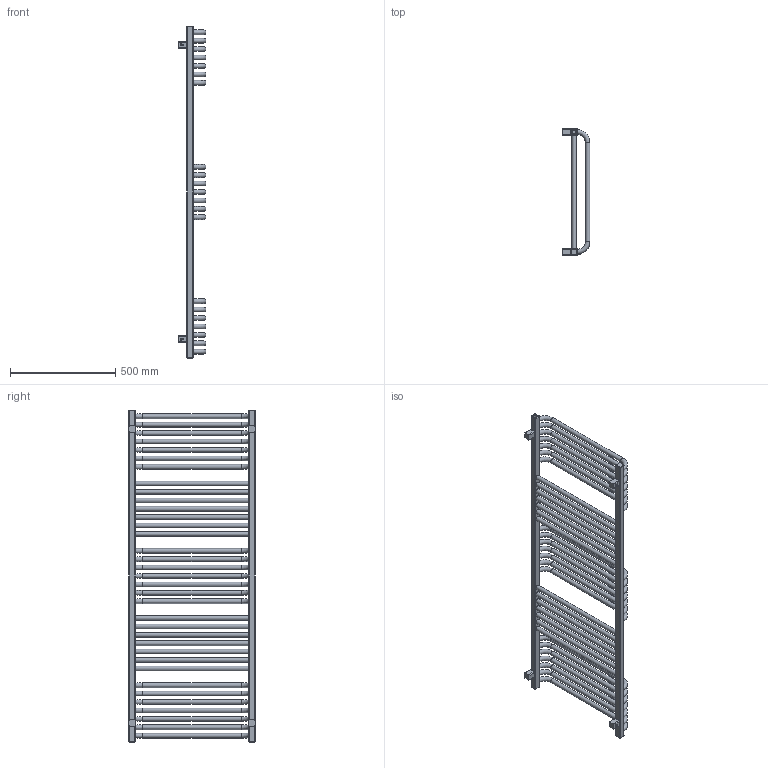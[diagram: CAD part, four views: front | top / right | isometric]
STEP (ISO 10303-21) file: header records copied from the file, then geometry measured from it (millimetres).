
FILE_DESCRIPTION((''),'2;1');
FILE_NAME('Z:\R\G\P\RGP097 - Grzejnik Poll 2012 (ALFA)\Work\Inventor\Marketing\Modele AutoCAD\PLL-1580-600 S5.stp','2012-06-29T12:45:19',('KurKa'),(''),'Autodesk Inventor 2012','Autodesk Inventor 2012','');
FILE_SCHEMA(('AUTOMOTIVE_DESIGN { 1 0 10303 214 1 1 1 1 }'));
Length unit declared in the file: millimetre
Products named in the file (3): PLL-1580-600 S5; MMT42_marketing
Assembly tree (5 placements, depth 2):
  PLL-1580-600 S5
    PLL-1580-600 S5
    MMT42_marketing  x4
Bounding box: 133 x 606 x 1580 mm (x, y, z)
Volume: 10828672.5 mm3; surface area: 1803041.8 mm2
Topology: 5 solids, 5 shells, 318 faces, 748 edges, 453 vertices
Faces by surface type: plane 115, cylinder 110, torus 50, cone 27, sphere 16
Full cylindrical faces by diameter (mm): 4.509 x4, 12 x4, 18.631 x3, 22 x35
Entity records: 4865 total; most frequent: DIRECTION 904, CARTESIAN_POINT 783, ORIENTED_EDGE 640, AXIS2_PLACEMENT_3D 397, EDGE_LOOP 348, EDGE_CURVE 320, VERTEX_POINT 236, CIRCLE 206
